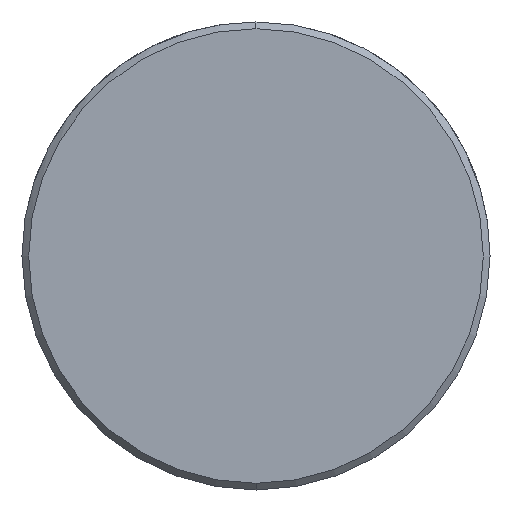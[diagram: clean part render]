
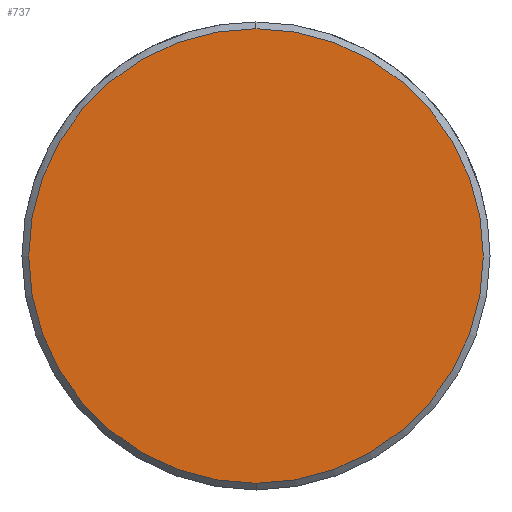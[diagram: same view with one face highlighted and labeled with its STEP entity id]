
A CAD part, left-side view. The second image highlights one B-rep face of the part: STEP entity #737.
In plain terms, the highlighted planar face has unit normal (-1, 0, 0).
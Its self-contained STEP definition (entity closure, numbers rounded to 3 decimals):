
#669=CARTESIAN_POINT('Vertex',(0.,0.,-10.2)) ;
#672=CARTESIAN_POINT('Axis2P3D Location',(0.,0.,0.)) ;
#676=CARTESIAN_POINT('Vertex',(0.,10.2,0.)) ;
#679=CARTESIAN_POINT('Axis2P3D Location',(0.,0.,0.)) ;
#683=CARTESIAN_POINT('Vertex',(0.,0.,10.2)) ;
#705=CARTESIAN_POINT('Axis2P3D Location',(0.,0.,0.)) ;
#709=CARTESIAN_POINT('Vertex',(0.,-10.2,0.)) ;
#712=CARTESIAN_POINT('Axis2P3D Location',(0.,0.,0.)) ;
#726=CARTESIAN_POINT('Axis2P3D Location',(0.,0.,0.)) ;
#673=DIRECTION('Axis2P3D Direction',(1.,0.,-0.)) ;
#680=DIRECTION('Axis2P3D Direction',(1.,0.,-0.)) ;
#706=DIRECTION('Axis2P3D Direction',(1.,0.,-0.)) ;
#713=DIRECTION('Axis2P3D Direction',(1.,0.,-0.)) ;
#727=DIRECTION('Axis2P3D Direction',(1.,0.,-0.)) ;
#728=DIRECTION('Axis2P3D XDirection',(-0.,0.,-1.)) ;
#674=AXIS2_PLACEMENT_3D('Circle Axis2P3D',#672,#673,$) ;
#681=AXIS2_PLACEMENT_3D('Circle Axis2P3D',#679,#680,$) ;
#707=AXIS2_PLACEMENT_3D('Circle Axis2P3D',#705,#706,$) ;
#714=AXIS2_PLACEMENT_3D('Circle Axis2P3D',#712,#713,$) ;
#729=AXIS2_PLACEMENT_3D('Plane Axis2P3D',#726,#727,#728) ;
#732=ORIENTED_EDGE('',*,*,#678,.F.) ;
#733=ORIENTED_EDGE('',*,*,#716,.F.) ;
#734=ORIENTED_EDGE('',*,*,#711,.F.) ;
#735=ORIENTED_EDGE('',*,*,#685,.F.) ;
#737=ADVANCED_FACE('549-18X60',(#736),#730,.F.) ;
#675=CIRCLE('generated circle',#674,10.2) ;
#682=CIRCLE('generated circle',#681,10.2) ;
#708=CIRCLE('generated circle',#707,10.2) ;
#715=CIRCLE('generated circle',#714,10.2) ;
#678=EDGE_CURVE('',#670,#677,#675,.T.) ;
#685=EDGE_CURVE('',#677,#684,#682,.T.) ;
#711=EDGE_CURVE('',#684,#710,#708,.T.) ;
#716=EDGE_CURVE('',#710,#670,#715,.T.) ;
#731=EDGE_LOOP('',(#732,#733,#734,#735)) ;
#736=FACE_OUTER_BOUND('',#731,.T.) ;
#730=PLANE('Plane',#729) ;
#670=VERTEX_POINT('',#669) ;
#677=VERTEX_POINT('',#676) ;
#684=VERTEX_POINT('',#683) ;
#710=VERTEX_POINT('',#709) ;
